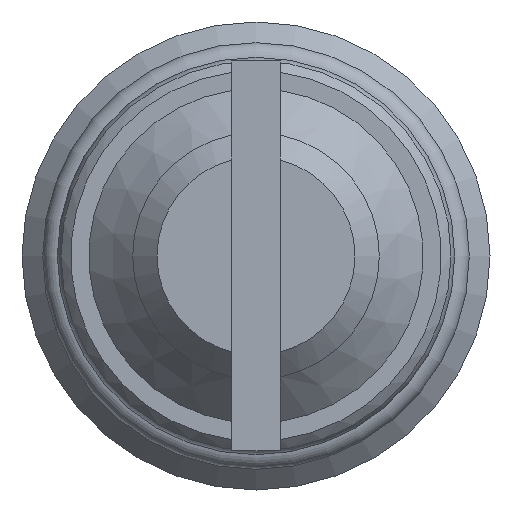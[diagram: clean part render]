
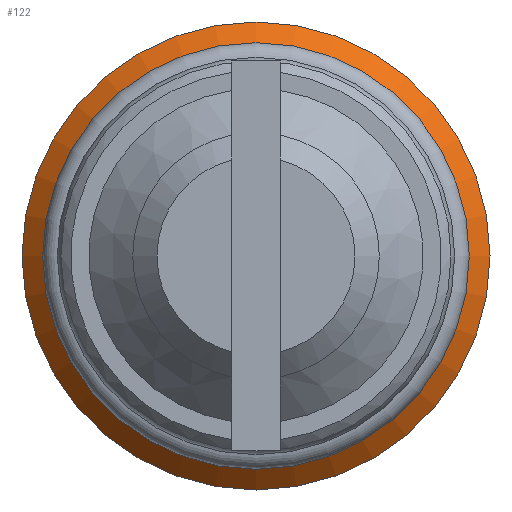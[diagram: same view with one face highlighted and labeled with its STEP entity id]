
A CAD part, left-side view. The second image highlights one B-rep face of the part: STEP entity #122.
In plain terms, the highlighted conical face has half-angle 45 degrees and reference radius 4 mm.
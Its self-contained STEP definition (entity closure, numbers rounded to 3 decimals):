
#122 = ADVANCED_FACE( '', ( #275, #276 ), #277, .T. );
#275 = FACE_OUTER_BOUND( '', #456, .T. );
#276 = FACE_BOUND( '', #457, .T. );
#277 = CONICAL_SURFACE( '', #458, 4., 0.785 );
#456 = EDGE_LOOP( '', ( #756 ) );
#457 = EDGE_LOOP( '', ( #757 ) );
#458 = AXIS2_PLACEMENT_3D( '', #758, #759, #760 );
#756 = ORIENTED_EDGE( '', *, *, #1095, .F. );
#757 = ORIENTED_EDGE( '', *, *, #1096, .T. );
#758 = CARTESIAN_POINT( '', ( 8.5, 0., 0. ) );
#759 = DIRECTION( '', ( 1., 0., 0. ) );
#760 = DIRECTION( '', ( 0., 0., -1. ) );
#1095 = EDGE_CURVE( '', #1323, #1323, #1324, .T. );
#1096 = EDGE_CURVE( '', #1325, #1325, #1326, .T. );
#1323 = VERTEX_POINT( '', #1642 );
#1324 = CIRCLE( '', #1643, 4.8 );
#1325 = VERTEX_POINT( '', #1644 );
#1326 = CIRCLE( '', #1645, 4. );
#1642 = CARTESIAN_POINT( '', ( 9.3, 0., -4.8 ) );
#1643 = AXIS2_PLACEMENT_3D( '', #1867, #1868, #1869 );
#1644 = CARTESIAN_POINT( '', ( 8.5, 0., -4. ) );
#1645 = AXIS2_PLACEMENT_3D( '', #1870, #1871, #1872 );
#1867 = CARTESIAN_POINT( '', ( 9.3, 0., 0. ) );
#1868 = DIRECTION( '', ( 1., 0., 0. ) );
#1869 = DIRECTION( '', ( 0., 0., -1. ) );
#1870 = CARTESIAN_POINT( '', ( 8.5, 0., 0. ) );
#1871 = DIRECTION( '', ( 1., 0., 0. ) );
#1872 = DIRECTION( '', ( 0., 0., -1. ) );
